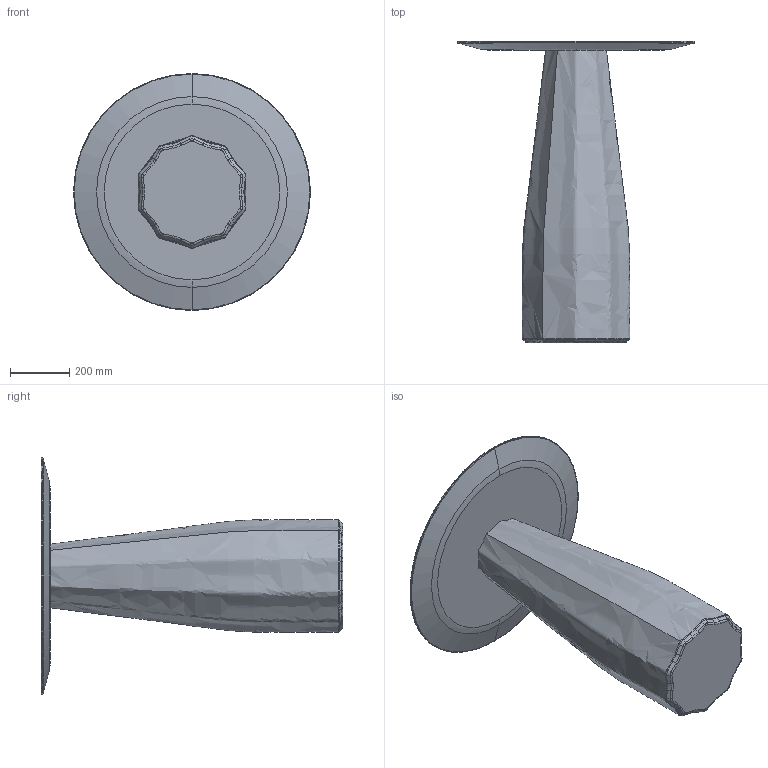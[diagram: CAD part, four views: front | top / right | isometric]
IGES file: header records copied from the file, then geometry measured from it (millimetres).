
Start section: SolidWorks IGES file using analytic representation for surfaces
Global section: file name: Z:\01-VICCARBE\VICCARBE TECNICO 2018\6.-Studio VCCB\Otros\Burin\Modelado\WEB\Nueva carpeta\BurinH100D80.IGS; native system: SolidWorks 2013; preprocessor: SolidWorks 2013; author: Usuario; date: 190219.123821; units: millimetre
Bounding box: 800 x 1020 x 800 mm (x, y, z)
Volume: 90829179.6 mm3; surface area: 2159251.6 mm2
Topology: 2 solids, 2 shells, 156 faces, 408 edges, 236 vertices
Faces by surface type: bspline 142, revolution 10, plane 4
